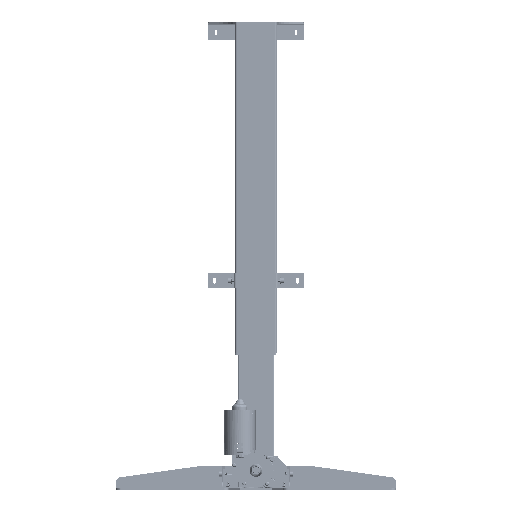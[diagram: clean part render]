
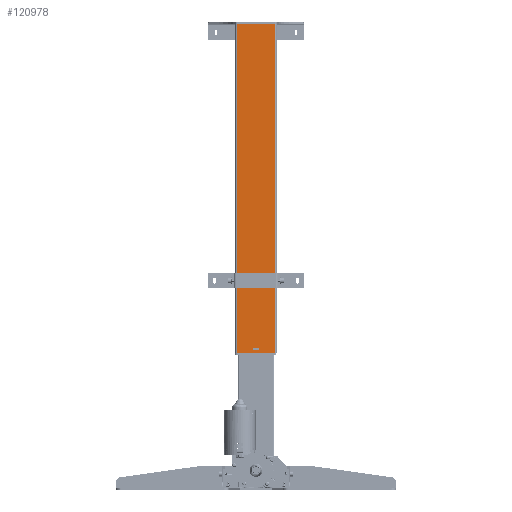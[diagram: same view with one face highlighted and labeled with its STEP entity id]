
A CAD part, left-side view. The second image highlights one B-rep face of the part: STEP entity #120978.
In plain terms, the highlighted planar face has unit normal (-1, 0, 0).
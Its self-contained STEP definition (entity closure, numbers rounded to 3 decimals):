
#3719 = EDGE_CURVE ( 'NONE', #24822, #84500, #38193, .T. ) ;
#5209 = EDGE_CURVE ( 'NONE', #164139, #199793, #112696, .T. ) ;
#14860 = CARTESIAN_POINT ( 'NONE',  ( -30., 6., 10. ) ) ;
#16383 = EDGE_CURVE ( 'NONE', #114032, #164139, #56941, .T. ) ;
#17115 = DIRECTION ( 'NONE',  ( 1., 0., 0. ) ) ;
#24822 = VERTEX_POINT ( 'NONE', #48999 ) ;
#28272 = CARTESIAN_POINT ( 'NONE',  ( -30., 6., 10. ) ) ;
#29058 = EDGE_CURVE ( 'NONE', #84500, #55516, #111675, .T. ) ;
#29227 = DIRECTION ( 'NONE',  ( 0., 0., -1. ) ) ;
#33205 = FACE_OUTER_BOUND ( 'NONE', #80057, .T. ) ;
#38193 = LINE ( 'NONE', #103432, #196089 ) ;
#38598 = CARTESIAN_POINT ( 'NONE',  ( -30., -37., 0. ) ) ;
#41936 = CARTESIAN_POINT ( 'NONE',  ( -30., -6., 10. ) ) ;
#46678 = LINE ( 'NONE', #140726, #146926 ) ;
#47500 = CARTESIAN_POINT ( 'NONE',  ( -30., 37., 0. ) ) ;
#48999 = CARTESIAN_POINT ( 'NONE',  ( -30., -6., 6. ) ) ;
#54024 = ORIENTED_EDGE ( 'NONE', *, *, #16383, .T. ) ;
#55270 = DIRECTION ( 'NONE',  ( 0., 1., 0. ) ) ;
#55516 = VERTEX_POINT ( 'NONE', #14860 ) ;
#56941 = LINE ( 'NONE', #140267, #208376 ) ;
#62618 = EDGE_CURVE ( 'NONE', #111208, #24822, #158591, .T. ) ;
#62652 = ORIENTED_EDGE ( 'NONE', *, *, #29058, .T. ) ;
#63514 = DIRECTION ( 'NONE',  ( 0., -1., 0. ) ) ;
#80057 = EDGE_LOOP ( 'NONE', ( #122999, #152724, #137846, #54024 ) ) ;
#82360 = DIRECTION ( 'NONE',  ( 0., 1., 0. ) ) ;
#84500 = VERTEX_POINT ( 'NONE', #135688 ) ;
#93522 = DIRECTION ( 'NONE',  ( 0., -1., 0. ) ) ;
#94517 = ORIENTED_EDGE ( 'NONE', *, *, #125930, .T. ) ;
#98441 = PLANE ( 'NONE',  #148415 ) ;
#99481 = FACE_BOUND ( 'NONE', #208815, .T. ) ;
#102898 = ORIENTED_EDGE ( 'NONE', *, *, #62618, .T. ) ;
#103432 = CARTESIAN_POINT ( 'NONE',  ( -30., 6., 6. ) ) ;
#107419 = VECTOR ( 'NONE', #63514, 1000. ) ;
#108389 = CARTESIAN_POINT ( 'NONE',  ( -30., -6., 10. ) ) ;
#110560 = EDGE_CURVE ( 'NONE', #184424, #199793, #46678, .T. ) ;
#111208 = VERTEX_POINT ( 'NONE', #41936 ) ;
#111675 = LINE ( 'NONE', #127669, #147253 ) ;
#112696 = LINE ( 'NONE', #144712, #107419 ) ;
#114032 = VERTEX_POINT ( 'NONE', #184555 ) ;
#120609 = VECTOR ( 'NONE', #135777, 1000. ) ;
#120978 = ADVANCED_FACE ( 'NONE', ( #99481, #33205 ), #98441, .F. ) ;
#122999 = ORIENTED_EDGE ( 'NONE', *, *, #5209, .T. ) ;
#124268 = VECTOR ( 'NONE', #93522, 1000. ) ;
#125930 = EDGE_CURVE ( 'NONE', #55516, #111208, #172632, .T. ) ;
#127669 = CARTESIAN_POINT ( 'NONE',  ( -30., 6., 10. ) ) ;
#135688 = CARTESIAN_POINT ( 'NONE',  ( -30., 6., 6. ) ) ;
#135777 = DIRECTION ( 'NONE',  ( 0., -1., 0. ) ) ;
#137846 = ORIENTED_EDGE ( 'NONE', *, *, #171537, .F. ) ;
#138921 = LINE ( 'NONE', #152870, #120609 ) ;
#140267 = CARTESIAN_POINT ( 'NONE',  ( -30., 37., 635.55 ) ) ;
#140490 = DIRECTION ( 'NONE',  ( 0., 0., 1. ) ) ;
#140726 = CARTESIAN_POINT ( 'NONE',  ( -30., -37., 635.55 ) ) ;
#141758 = CARTESIAN_POINT ( 'NONE',  ( -30., -37., 635.55 ) ) ;
#144712 = CARTESIAN_POINT ( 'NONE',  ( -30., 37., 0. ) ) ;
#146926 = VECTOR ( 'NONE', #189965, 1000. ) ;
#147253 = VECTOR ( 'NONE', #140490, 1000. ) ;
#148415 = AXIS2_PLACEMENT_3D ( 'NONE', #163618, #17115, #82360 ) ;
#152724 = ORIENTED_EDGE ( 'NONE', *, *, #110560, .F. ) ;
#152870 = CARTESIAN_POINT ( 'NONE',  ( -30., 37., 635.55 ) ) ;
#158591 = LINE ( 'NONE', #108389, #183284 ) ;
#163618 = CARTESIAN_POINT ( 'NONE',  ( -30., 37., 635.55 ) ) ;
#164139 = VERTEX_POINT ( 'NONE', #47500 ) ;
#165103 = ORIENTED_EDGE ( 'NONE', *, *, #3719, .T. ) ;
#171537 = EDGE_CURVE ( 'NONE', #114032, #184424, #138921, .T. ) ;
#172632 = LINE ( 'NONE', #28272, #124268 ) ;
#183284 = VECTOR ( 'NONE', #29227, 1000. ) ;
#184424 = VERTEX_POINT ( 'NONE', #141758 ) ;
#184555 = CARTESIAN_POINT ( 'NONE',  ( -30., 37., 635.55 ) ) ;
#189965 = DIRECTION ( 'NONE',  ( 0., 0., -1. ) ) ;
#196089 = VECTOR ( 'NONE', #55270, 1000. ) ;
#199793 = VERTEX_POINT ( 'NONE', #38598 ) ;
#204505 = DIRECTION ( 'NONE',  ( 0., 0., -1. ) ) ;
#208376 = VECTOR ( 'NONE', #204505, 1000. ) ;
#208815 = EDGE_LOOP ( 'NONE', ( #62652, #94517, #102898, #165103 ) ) ;
